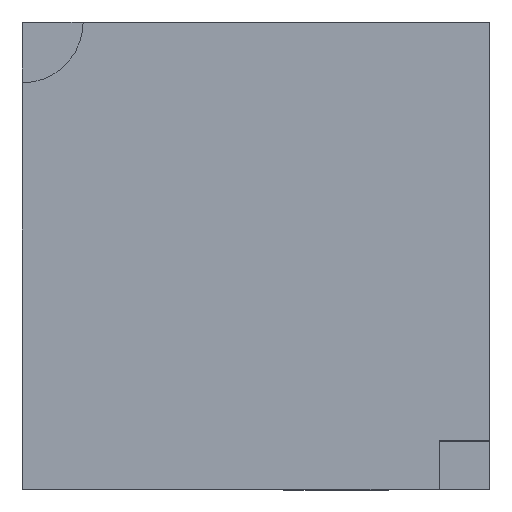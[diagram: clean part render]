
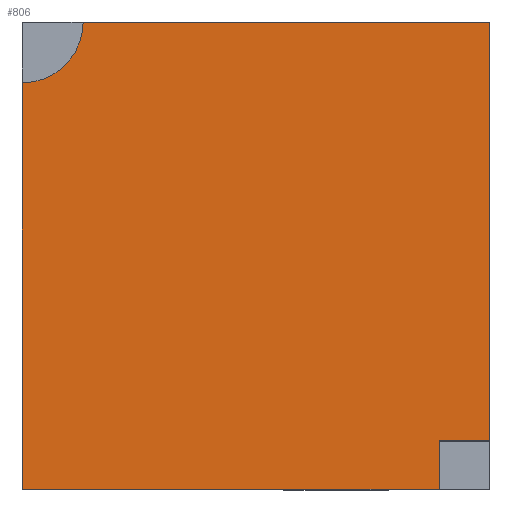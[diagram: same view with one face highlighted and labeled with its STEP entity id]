
A CAD part, top view. The second image highlights one B-rep face of the part: STEP entity #806.
In plain terms, the highlighted planar face has unit normal (0, 0, 1).
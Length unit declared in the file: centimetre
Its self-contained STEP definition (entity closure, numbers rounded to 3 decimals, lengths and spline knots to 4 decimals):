
#16 = DIRECTION ( 'NONE',  ( -1., 0., 0. ) ) ;
#20 = FACE_OUTER_BOUND ( 'NONE', #390, .T. ) ;
#22 = CIRCLE ( 'NONE', #154, 130.139 ) ;
#29 = ORIENTED_EDGE ( 'NONE', *, *, #165, .T. ) ;
#31 = LINE ( 'NONE', #187, #416 ) ;
#35 = EDGE_CURVE ( 'NONE', #668, #184, #22, .T. ) ;
#42 = VECTOR ( 'NONE', #82, 100. ) ;
#43 = DIRECTION ( 'NONE',  ( 0., -1., 0. ) ) ;
#82 = DIRECTION ( 'NONE',  ( 0., 1., 0. ) ) ;
#95 = DIRECTION ( 'NONE',  ( 0., 0., 1. ) ) ;
#102 = ORIENTED_EDGE ( 'NONE', *, *, #305, .T. ) ;
#109 = DIRECTION ( 'NONE',  ( 0., -1., 0. ) ) ;
#117 = CARTESIAN_POINT ( 'NONE',  ( 0., 0., 1000. ) ) ;
#126 = DIRECTION ( 'NONE',  ( 1., 0., 0. ) ) ;
#135 = DIRECTION ( 'NONE',  ( -1., 0., 0. ) ) ;
#154 = AXIS2_PLACEMENT_3D ( 'NONE', #809, #95, #403 ) ;
#165 = EDGE_CURVE ( 'NONE', #606, #184, #31, .T. ) ;
#183 = VERTEX_POINT ( 'NONE', #802 ) ;
#184 = VERTEX_POINT ( 'NONE', #641 ) ;
#185 = CARTESIAN_POINT ( 'NONE',  ( 891.872, 0., 1000. ) ) ;
#187 = CARTESIAN_POINT ( 'NONE',  ( 0., 1000., 1000. ) ) ;
#209 = VECTOR ( 'NONE', #43, 100. ) ;
#282 = CARTESIAN_POINT ( 'NONE',  ( 0., 0., 1000. ) ) ;
#296 = CARTESIAN_POINT ( 'NONE',  ( 891.872, 0., 1000. ) ) ;
#305 = EDGE_CURVE ( 'NONE', #491, #606, #1013, .T. ) ;
#341 = DIRECTION ( 'NONE',  ( 1., 0., 0. ) ) ;
#354 = LINE ( 'NONE', #185, #209 ) ;
#358 = CARTESIAN_POINT ( 'NONE',  ( 0., 1000., 1000. ) ) ;
#369 = CARTESIAN_POINT ( 'NONE',  ( 891.872, 103.502, 1000. ) ) ;
#390 = EDGE_LOOP ( 'NONE', ( #943, #909, #911, #993, #518, #102, #29 ) ) ;
#403 = DIRECTION ( 'NONE',  ( 1., 0., 0. ) ) ;
#416 = VECTOR ( 'NONE', #16, 100. ) ;
#435 = VECTOR ( 'NONE', #126, 100. ) ;
#491 = VERTEX_POINT ( 'NONE', #839 ) ;
#518 = ORIENTED_EDGE ( 'NONE', *, *, #935, .F. ) ;
#557 = CARTESIAN_POINT ( 'NONE',  ( 1000., 1000., 1000. ) ) ;
#606 = VERTEX_POINT ( 'NONE', #865 ) ;
#641 = CARTESIAN_POINT ( 'NONE',  ( 130.139, 1000., 1000. ) ) ;
#668 = VERTEX_POINT ( 'NONE', #905 ) ;
#691 = VERTEX_POINT ( 'NONE', #117 ) ;
#706 = EDGE_CURVE ( 'NONE', #183, #846, #354, .T. ) ;
#715 = VECTOR ( 'NONE', #109, 100. ) ;
#771 = EDGE_CURVE ( 'NONE', #668, #691, #966, .T. ) ;
#774 = CARTESIAN_POINT ( 'NONE',  ( 0., 0., 1000. ) ) ;
#802 = CARTESIAN_POINT ( 'NONE',  ( 891.872, 103.502, 1000. ) ) ;
#806 = ADVANCED_FACE ( 'NONE', ( #20 ), #971, .T. ) ;
#809 = CARTESIAN_POINT ( 'NONE',  ( 0., 1000., 1000. ) ) ;
#834 = AXIS2_PLACEMENT_3D ( 'NONE', #282, #902, #341 ) ;
#839 = CARTESIAN_POINT ( 'NONE',  ( 1000., 103.502, 1000. ) ) ;
#843 = LINE ( 'NONE', #774, #435 ) ;
#846 = VERTEX_POINT ( 'NONE', #296 ) ;
#865 = CARTESIAN_POINT ( 'NONE',  ( 1000., 1000., 1000. ) ) ;
#887 = VECTOR ( 'NONE', #135, 100. ) ;
#902 = DIRECTION ( 'NONE',  ( 0., 0., 1. ) ) ;
#904 = EDGE_CURVE ( 'NONE', #691, #846, #843, .T. ) ;
#905 = CARTESIAN_POINT ( 'NONE',  ( 0., 869.861, 1000. ) ) ;
#909 = ORIENTED_EDGE ( 'NONE', *, *, #771, .T. ) ;
#911 = ORIENTED_EDGE ( 'NONE', *, *, #904, .T. ) ;
#935 = EDGE_CURVE ( 'NONE', #491, #183, #1015, .T. ) ;
#943 = ORIENTED_EDGE ( 'NONE', *, *, #35, .F. ) ;
#966 = LINE ( 'NONE', #358, #715 ) ;
#971 = PLANE ( 'NONE',  #834 ) ;
#993 = ORIENTED_EDGE ( 'NONE', *, *, #706, .F. ) ;
#1013 = LINE ( 'NONE', #557, #42 ) ;
#1015 = LINE ( 'NONE', #369, #887 ) ;
